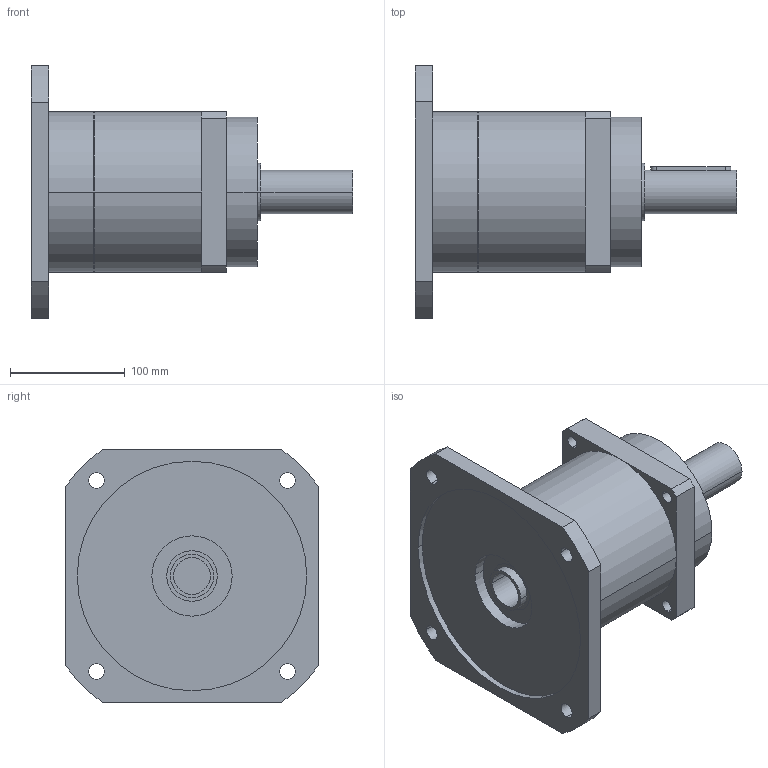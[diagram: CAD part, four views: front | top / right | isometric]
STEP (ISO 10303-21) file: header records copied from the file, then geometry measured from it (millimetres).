
FILE_DESCRIPTION(('CoCreate Modeling STEP Export'),'2;1');
FILE_NAME('GPR150_ig-3-4-5-7_38_B5_32_P12.stp','2014-08-19T16:43:02',(''),(''),'CoCreate Modeling STEP processor for AP214 (Solid Model)','CoCreate Modeling 16.00C 25-Feb-2009 (C) Parametric Technology GmbH','');
FILE_SCHEMA(('AUTOMOTIVE_DESIGN { 1 0 10303 214 1 1 1 1 }'));
Length unit declared in the file: millimetre
Products named in the file (2): GPR150_ig-3-4-5-7_38_B5_32_P12
Assembly tree (1 placements, depth 2):
  GPR150_ig-3-4-5-7_38_B5_32_P12
    GPR150_ig-3-4-5-7_38_B5_32_P12
Bounding box: 280 x 220 x 220 mm (x, y, z)
Volume: 3366574.3 mm3; surface area: 224250.2 mm2
Topology: 1 solids, 1 shells, 81 faces, 220 edges, 150 vertices
Faces by surface type: cylinder 48, plane 27, cone 6
Entity records: 2325 total; most frequent: ORIENTED_EDGE 436, CARTESIAN_POINT 431, DIRECTION 330, EDGE_CURVE 218, VERTEX_POINT 150, AXIS2_PLACEMENT_3D 121, EDGE_LOOP 108, VECTOR 88
